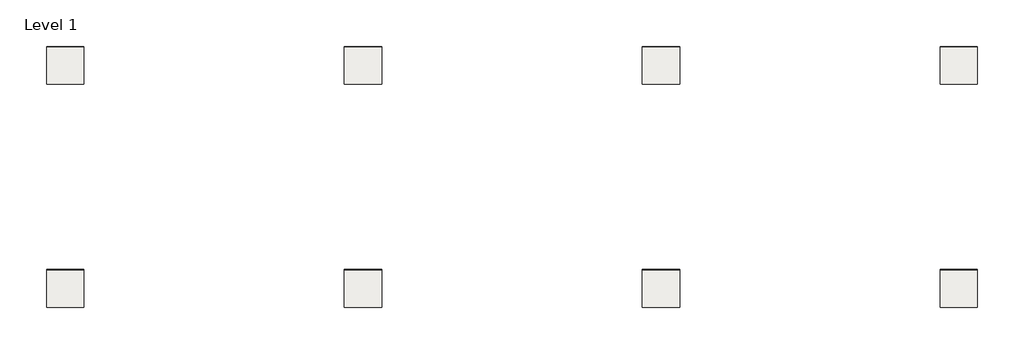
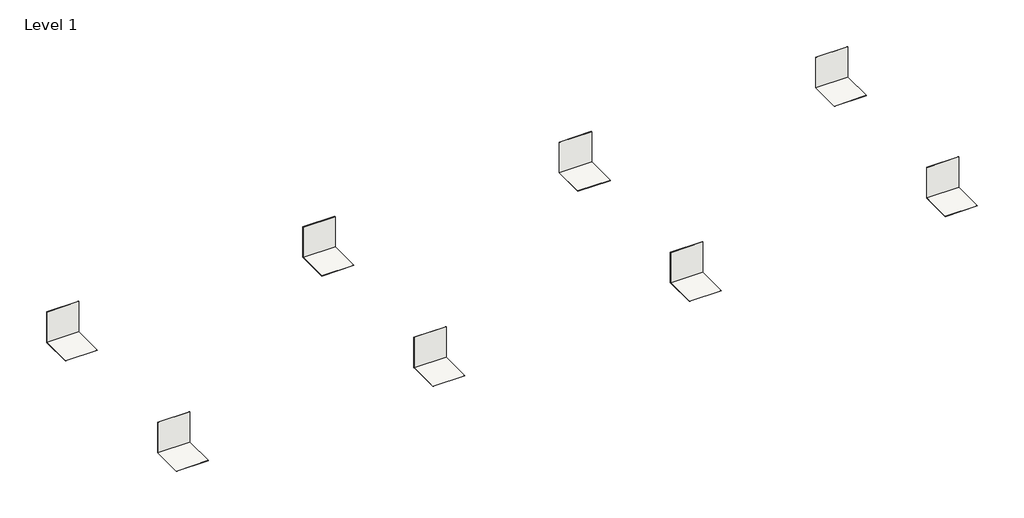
# One storey: 16 coverings.
"""IFC4 building model written with IfcOpenShell, lengths in millimetres."""

from ifc_helpers import new_model, si_unit, frame, origin, origin_with_axes, place, context, project, spatial, polyline, outline, extrude, element, save

model = new_model("IFC4")

# Units and contexts
model_context = context("Model", 3, world=origin())
ifc_project = project(units=[si_unit("LENGTHUNIT", "METRE", prefix="MILLI")], contexts=[model_context])

# Site, building, storey
site = spatial("IfcSite", under=ifc_project)
building = spatial("IfcBuilding", under=site)
storey = spatial("IfcBuildingStorey", under=building, Name="Level 1", Elevation=0.0)

# Coverings
placement = place(None, origin())
element("IfcCovering", 1, ObjectType="REVIGRÉS-CROMATICA-HALF-29,5x29,5x41,7 -SOFT-Cromatica_alloy", at=placement, inside=storey, context=model_context, shape_type="SweptSolid", body=[
    extrude(outline(polyline([(4002.0475963, 6398.4324289), (3002.0475963, 6398.4324289), (3002.0475963, 7398.4324289), (4002.0475963, 7398.4324289), (4002.0475963, 6398.4324289)])), frame((0.0, 0.0, -8.5), z_axis=(0.0, 0.0, 1.0), x_axis=(1.0, 0.0, 0.0)), (0.0, 0.0, 1.0), 8.5),
])
element("IfcCovering", 2, ObjectType="REVIGRÉS-CROMATICA-HALF-29,5x29,5x41,7 -SOFT-Cromatica_alloy", at=placement, inside=storey, context=model_context, shape_type="SweptSolid", body=[
    extrude(outline(polyline([(4002.0475963, 7398.4324289), (3002.0475963, 7398.4324289), (3002.0475963, 7406.9324289), (4002.0475963, 7406.9324289), (4002.0475963, 7398.4324289)])), origin_with_axes(), (0.0, 0.0, 1.0), 1000.0),
])
element("IfcCovering", 3, ObjectType="REVIGRÉS-CROMATICA-HALF-29,5x29,5x41,7 -SOFT-Cromatica_anis", at=placement, inside=storey, context=model_context, shape_type="SweptSolid", body=[
    extrude(outline(polyline([(12002.0475963, 6398.4324289), (11002.0475963, 6398.4324289), (11002.0475963, 7398.4324289), (12002.0475963, 7398.4324289), (12002.0475963, 6398.4324289)])), frame((0.0, 0.0, -8.5), z_axis=(0.0, 0.0, 1.0), x_axis=(1.0, 0.0, 0.0)), (0.0, 0.0, 1.0), 8.5),
])
element("IfcCovering", 4, ObjectType="REVIGRÉS-CROMATICA-HALF-29,5x29,5x41,7 -SOFT-Cromatica_anis", at=placement, inside=storey, context=model_context, shape_type="SweptSolid", body=[
    extrude(outline(polyline([(12002.0475963, 7398.4324289), (11002.0475963, 7398.4324289), (11002.0475963, 7406.9324289), (12002.0475963, 7406.9324289), (12002.0475963, 7398.4324289)])), origin_with_axes(), (0.0, 0.0, 1.0), 1000.0),
])
element("IfcCovering", 5, ObjectType="REVIGRÉS-CROMATICA-HALF-29,5x29,5x41,7 -SOFT-Cromatica_bone", at=placement, inside=storey, context=model_context, shape_type="SweptSolid", body=[
    extrude(outline(polyline([(20002.0475963, 6398.4324289), (19002.0475963, 6398.4324289), (19002.0475963, 7398.4324289), (20002.0475963, 7398.4324289), (20002.0475963, 6398.4324289)])), frame((0.0, 0.0, -8.5), z_axis=(0.0, 0.0, 1.0), x_axis=(1.0, 0.0, 0.0)), (0.0, 0.0, 1.0), 8.5),
])
element("IfcCovering", 6, ObjectType="REVIGRÉS-CROMATICA-HALF-29,5x29,5x41,7 -SOFT-Cromatica_bone", at=placement, inside=storey, context=model_context, shape_type="SweptSolid", body=[
    extrude(outline(polyline([(20002.0475963, 7398.4324289), (19002.0475963, 7398.4324289), (19002.0475963, 7406.9324289), (20002.0475963, 7406.9324289), (20002.0475963, 7398.4324289)])), origin_with_axes(), (0.0, 0.0, 1.0), 1000.0),
])
element("IfcCovering", 7, ObjectType="REVIGRÉS-CROMATICA-HALF-29,5x29,5x41,7 -SOFT-Cromatica_grafite", at=placement, inside=storey, context=model_context, shape_type="SweptSolid", body=[
    extrude(outline(polyline([(28002.0475963, 6398.4324289), (27002.0475963, 6398.4324289), (27002.0475963, 7398.4324289), (28002.0475963, 7398.4324289), (28002.0475963, 6398.4324289)])), frame((0.0, 0.0, -8.5), z_axis=(0.0, 0.0, 1.0), x_axis=(1.0, 0.0, 0.0)), (0.0, 0.0, 1.0), 8.5),
])
element("IfcCovering", 8, ObjectType="REVIGRÉS-CROMATICA-HALF-29,5x29,5x41,7 -SOFT-Cromatica_grafite", at=placement, inside=storey, context=model_context, shape_type="SweptSolid", body=[
    extrude(outline(polyline([(28002.0475963, 7398.4324289), (27002.0475963, 7398.4324289), (27002.0475963, 7406.9324289), (28002.0475963, 7406.9324289), (28002.0475963, 7398.4324289)])), origin_with_axes(), (0.0, 0.0, 1.0), 1000.0),
])
element("IfcCovering", 9, ObjectType="REVIGRÉS-CROMATICA-HALF-29,5x29,5x41,7 -SOFT-Cromatica_quartz", at=placement, inside=storey, context=model_context, shape_type="SweptSolid", body=[
    extrude(outline(polyline([(20002.0475963, 398.4324289), (19002.0475963, 398.4324289), (19002.0475963, 1398.4324289), (20002.0475963, 1398.4324289), (20002.0475963, 398.4324289)])), frame((0.0, 0.0, -8.5), z_axis=(0.0, 0.0, 1.0), x_axis=(1.0, 0.0, 0.0)), (0.0, 0.0, 1.0), 8.5),
])
element("IfcCovering", 10, ObjectType="REVIGRÉS-CROMATICA-HALF-29,5x29,5x41,7 -SOFT-Cromatica_quartz", at=placement, inside=storey, context=model_context, shape_type="SweptSolid", body=[
    extrude(outline(polyline([(20002.0475963, 1398.4324289), (19002.0475963, 1398.4324289), (19002.0475963, 1406.9324289), (20002.0475963, 1406.9324289), (20002.0475963, 1398.4324289)])), origin_with_axes(), (0.0, 0.0, 1.0), 1000.0),
])
element("IfcCovering", 11, ObjectType="REVIGRÉS-CROMATICA-HALF-29,5x29,5x41,7 -SOFT-Cromatica_ocre", at=placement, inside=storey, context=model_context, shape_type="SweptSolid", body=[
    extrude(outline(polyline([(4002.0475963, 398.432429), (3002.0475963, 398.432429), (3002.0475963, 1398.432429), (4002.0475963, 1398.432429), (4002.0475963, 398.432429)])), frame((0.0, 0.0, -8.5), z_axis=(0.0, 0.0, 1.0), x_axis=(1.0, 0.0, 0.0)), (0.0, 0.0, 1.0), 8.5),
])
element("IfcCovering", 12, ObjectType="REVIGRÉS-CROMATICA-HALF-29,5x29,5x41,7 -SOFT-Cromatica_ocre", at=placement, inside=storey, context=model_context, shape_type="SweptSolid", body=[
    extrude(outline(polyline([(4002.0475963, 1398.432429), (3002.0475963, 1398.432429), (3002.0475963, 1406.932429), (4002.0475963, 1406.932429), (4002.0475963, 1398.432429)])), origin_with_axes(), (0.0, 0.0, 1.0), 1000.0),
])
element("IfcCovering", 13, ObjectType="REVIGRÉS-CROMATICA-HALF-29,5x29,5x41,7 -SOFT-Cromatica_oliva", at=placement, inside=storey, context=model_context, shape_type="SweptSolid", body=[
    extrude(outline(polyline([(12002.0475963, 398.432429), (11002.0475963, 398.432429), (11002.0475963, 1398.432429), (12002.0475963, 1398.432429), (12002.0475963, 398.432429)])), frame((0.0, 0.0, -8.5), z_axis=(0.0, 0.0, 1.0), x_axis=(1.0, 0.0, 0.0)), (0.0, 0.0, 1.0), 8.5),
])
element("IfcCovering", 14, ObjectType="REVIGRÉS-CROMATICA-HALF-29,5x29,5x41,7 -SOFT-Cromatica_oliva", at=placement, inside=storey, context=model_context, shape_type="SweptSolid", body=[
    extrude(outline(polyline([(12002.0475963, 1398.432429), (11002.0475963, 1398.432429), (11002.0475963, 1406.932429), (12002.0475963, 1406.932429), (12002.0475963, 1398.432429)])), origin_with_axes(), (0.0, 0.0, 1.0), 1000.0),
])
element("IfcCovering", 15, ObjectType="REVIGRÉS-CROMATICA-HALF-29,5x29,5x41,7 -SOFT-Cromatica_superbranco", at=placement, inside=storey, context=model_context, shape_type="SweptSolid", body=[
    extrude(outline(polyline([(28002.0475963, 398.4324289), (27002.0475963, 398.4324289), (27002.0475963, 1398.432429), (28002.0475963, 1398.432429), (28002.0475963, 398.4324289)])), frame((0.0, 0.0, -8.5), z_axis=(0.0, 0.0, 1.0), x_axis=(1.0, 0.0, 0.0)), (0.0, 0.0, 1.0), 8.5),
])
element("IfcCovering", 16, ObjectType="REVIGRÉS-CROMATICA-HALF-29,5x29,5x41,7 -SOFT-Cromatica_superbranco", at=placement, inside=storey, context=model_context, shape_type="SweptSolid", body=[
    extrude(outline(polyline([(28002.0475963, 1398.4324289), (27002.0475963, 1398.4324289), (27002.0475963, 1406.9324289), (28002.0475963, 1406.9324289), (28002.0475963, 1398.4324289)])), origin_with_axes(), (0.0, 0.0, 1.0), 1000.0),
])

save(model, "model.ifc")
